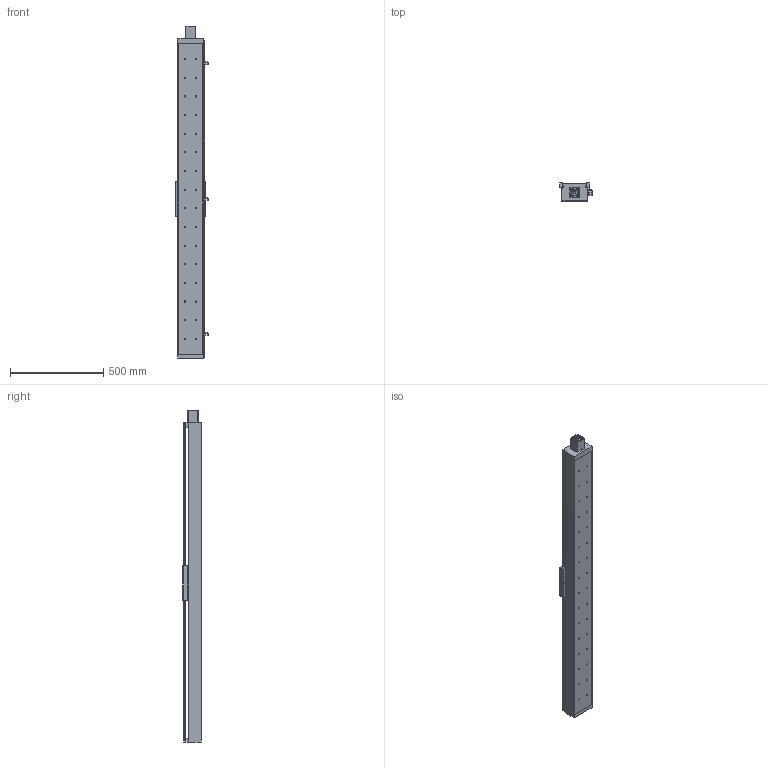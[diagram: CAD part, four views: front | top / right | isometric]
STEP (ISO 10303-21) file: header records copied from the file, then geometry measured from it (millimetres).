
FILE_DESCRIPTION((''),'2;1');
FILE_NAME('E:\libraries\UIA actuator library 2009\standard actuator\UIA136 ball screw 20\UIA136R15NDC stp file 27Apr16\UIA136R15NDC-1450-R20_ _-M60-P13-C10-S.stp','2016-04-27T15:59:22',('h029'),(''),'Autodesk Inventor 11','Autodesk Inventor 11','');
FILE_SCHEMA(('AUTOMOTIVE_DESIGN { 1 0 10303 214 1 1 1 1 }'));
Length unit declared in the file: millimetre
Products named in the file (10): UIA136R15NDC-1450; UIA136R15NDC-body; motor mount F60; SOH-32C; SOH-32C-3; SOH-32C-1; SOH-32C-2; Carriage; Sensor Switch; sensor rail
Assembly tree (9 placements, depth 3):
  UIA136R15NDC-1450
    UIA136R15NDC-body
    motor mount F60
    SOH-32C
      SOH-32C-3
      SOH-32C-1
      SOH-32C-2
    Carriage
    Sensor Switch
    sensor rail
Bounding box: 174.5 x 98 x 1780 mm (x, y, z)
Volume: 6295817.7 mm3; surface area: 1805700.7 mm2
Topology: 8 solids, 8 shells, 543 faces, 1401 edges, 921 vertices
Faces by surface type: plane 313, bspline 186, cylinder 40, cone 4
Full cylindrical faces by diameter (mm): 2.459 x2, 3.242 x2, 4.5 x2, 5.5 x3, 7.5 x2, 10 x2, 12 x1, 14 x1, 32 x3, 37 x1, 41.9 x1, 42.1 x1, 43.5 x1
Entity records: 17851 total; most frequent: CARTESIAN_POINT 5546, ORIENTED_EDGE 2346, DIRECTION 2282, EDGE_CURVE 1173, EDGE_LOOP 869, VERTEX_POINT 856, VECTOR 798, LINE 798
